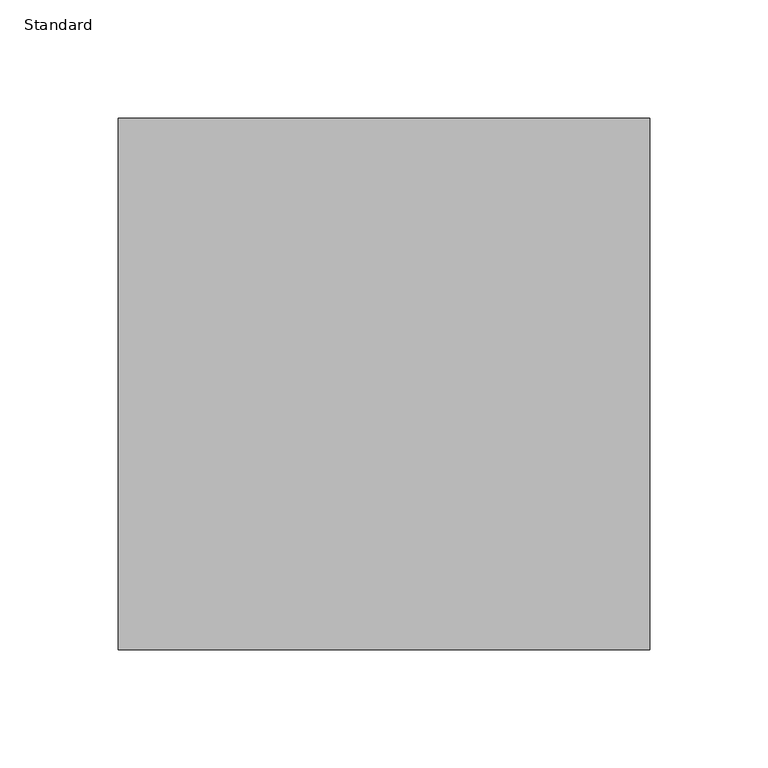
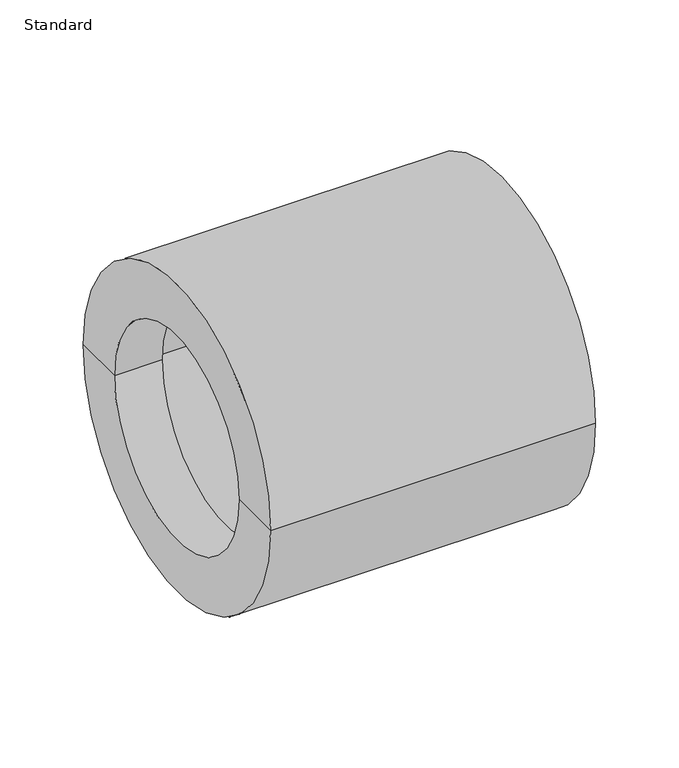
"""IFC4 building model written with IfcOpenShell, lengths in millimetres: pipe fitting geometry, Durapipe_PipeFitting_PVC_ReducingBush : Standard."""

from ifc_helpers import new_model, si_unit, frame, origin, place, context, project, spatial, polyline, circle_curve, source, transform, mapped, element, save
from ifc_brep_helpers import plane_surface, cylinder_surface, revolved_surface, advanced_brep


def standard_e8015140(model_context):
    return source(origin(), model_context, "Body", "AdvancedBrep", [
        advanced_brep(
        [(-33.0, -75.0, 0.0), (-33.0, 75.0, 0.0), (-33.0, 112.5, 0.0), (-33.0, -112.5, 0.0), (0.0, -75.0, 0.0), (0.0, 75.0, 0.0), (0.0, -80.0, 0.0), (0.0, 80.0, 0.0), (192.0, -80.0, 0.0), (192.0, 80.0, 0.0), (192.0, -112.5, 0.0), (192.0, 112.5, 0.0)],
        [
            (0, 1, circle_curve(frame((-33.0, 0.0, 0.0), z_axis=(1.0, 0.0, 0.0), x_axis=(0.0, 1.0, 0.0)), 75.0)),
            (1, 2),
            (2, 3, circle_curve(frame((-33.0, 0.0, 0.0), z_axis=(-1.0, 0.0, 0.0), x_axis=(0.0, 1.0, 0.0)), 112.5)),
            (3, 0),
            (1, 0, circle_curve(frame((-33.0, 0.0, 0.0), z_axis=(1.0, 0.0, 0.0), x_axis=(0.0, 1.0, 0.0)), 75.0)),
            (3, 2, circle_curve(frame((-33.0, 0.0, 0.0), z_axis=(-1.0, 0.0, 0.0), x_axis=(0.0, 1.0, 0.0)), 112.5)),
            (4, 5, circle_curve(frame((0.0, 0.0, 0.0), z_axis=(1.0, 0.0, 0.0), x_axis=(0.0, 1.0, 0.0)), 75.0)),
            (5, 1),
            (0, 4),
            (5, 4, circle_curve(frame((0.0, 0.0, 0.0), z_axis=(1.0, 0.0, 0.0), x_axis=(0.0, 1.0, 0.0)), 75.0)),
            (6, 7, circle_curve(frame((0.0, 0.0, 0.0), z_axis=(1.0, 0.0, 0.0), x_axis=(0.0, 1.0, 0.0)), 80.0)),
            (7, 5),
            (4, 6),
            (7, 6, circle_curve(frame((0.0, 0.0, 0.0), z_axis=(1.0, 0.0, 0.0), x_axis=(0.0, 1.0, 0.0)), 80.0)),
            (8, 9, circle_curve(frame((192.0, 0.0, 0.0), z_axis=(1.0, 0.0, 0.0), x_axis=(0.0, 1.0, 0.0)), 80.0)),
            (9, 7),
            (6, 8),
            (9, 8, circle_curve(frame((192.0, 0.0, 0.0), z_axis=(1.0, 0.0, 0.0), x_axis=(0.0, 1.0, 0.0)), 80.0)),
            (10, 11, circle_curve(frame((192.0, 0.0, 0.0), z_axis=(1.0, 0.0, 0.0), x_axis=(0.0, 1.0, 0.0)), 112.5)),
            (11, 9),
            (8, 10),
            (11, 10, circle_curve(frame((192.0, 0.0, 0.0), z_axis=(1.0, 0.0, 0.0), x_axis=(0.0, 1.0, 0.0)), 112.5)),
            (2, 11),
            (10, 3),
        ],
        [
            plane_surface(frame((-33.0, 0.0, 0.0), z_axis=(-1.0, 0.0, 0.0), x_axis=(0.0, 1.0, 0.0))),
            revolved_surface(polyline([(-33.0, 75.0, 0.0), (0.0, 75.0, 0.0)]), (2178.0, 0.0, 0.0), (-1.0, 0.0, 0.0)),
            plane_surface(frame((0.0, 0.0, 0.0), z_axis=(1.0, 0.0, 0.0), x_axis=(0.0, 1.0, 0.0))),
            revolved_surface(polyline([(0.0, 80.0, 0.0), (192.0, 80.0, 0.0)]), (2178.0, 0.0, 0.0), (-1.0, 0.0, 0.0)),
            plane_surface(frame((192.0, 0.0, 0.0), z_axis=(1.0, 0.0, 0.0), x_axis=(0.0, 1.0, 0.0))),
            cylinder_surface(frame((2178.0, 0.0, 0.0), z_axis=(-1.0, 0.0, 0.0), x_axis=(0.0, 1.0, 0.0)), 112.5),
        ],
        [
            (0, [[1, 2, 3, 4]]),
            (0, [[5, -4, 6, -2]]),
            (1, [[7, 8, -1, 9]]),
            (1, [[10, -9, -5, -8]]),
            (2, [[11, 12, -7, 13]]),
            (2, [[14, -13, -10, -12]]),
            (3, [[15, 16, -11, 17]]),
            (3, [[18, -17, -14, -16]]),
            (4, [[19, 20, -15, 21]]),
            (4, [[22, -21, -18, -20]]),
            (5, [[-3, 23, -19, 24]]),
            (5, [[-6, -24, -22, -23]]),
        ],
    ),
    ])


if __name__ == "__main__":
    model = new_model("IFC4")
    model_context = context("Model", 3, world=origin())
    ifc_project = project(units=[si_unit("LENGTHUNIT", "METRE", prefix="MILLI")], contexts=[model_context])
    site = spatial("IfcSite", under=ifc_project)
    building = spatial("IfcBuilding", under=site)
    placement = place(None, origin())
    standard_shape = standard_e8015140(model_context)
    element("IfcPipeFitting", 1, ObjectType="Durapipe_PipeFitting_PVC_ReducingBush : Standard", at=placement, inside=building, context=model_context, shape_type="MappedRepresentation", body=[
        mapped(standard_shape, transform((0.0, 0.0, 0.0), x_axis=(1.0, 0.0, 0.0), y_axis=(0.0, 1.0, 0.0), z_axis=(0.0, 0.0, 1.0))),
    ])
    save(model, "model.ifc")
